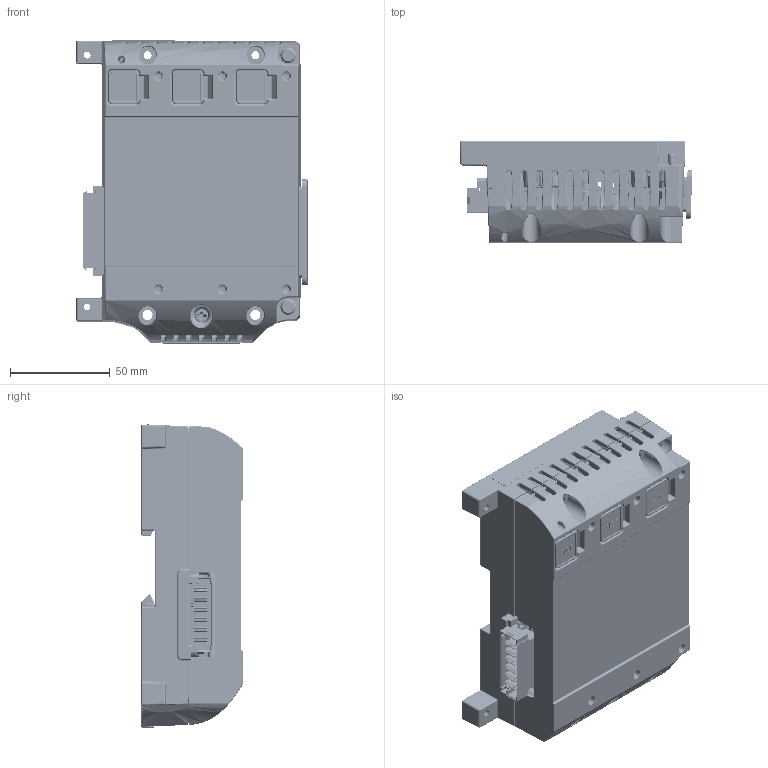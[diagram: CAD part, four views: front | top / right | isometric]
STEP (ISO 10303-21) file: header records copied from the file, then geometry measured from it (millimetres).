
FILE_DESCRIPTION(/* description */ ('Unknown'),/* implementation_level */ '2;1');
FILE_NAME(/* name */ 'GEXRACK2',/* time_stamp */ '2020-02-12T09:26:33-05:00',/* author */ ('Unknown'),/* organization */ ('Unknown'),/* preprocessor_version */ 'ST-DEVELOPER v16.7',/* originating_system */ 'DEX',/* authorisation */ $);
FILE_SCHEMA (('AUTOMOTIVE_DESIGN {1 0 10303 214 3 1 1}'));
Products named in the file (17): GEXRACK2; CV540200; HWSCS032; CV540300; 10495; M5314A_Rack_3Port_2015-03-31_11-46; HWRING04; HWSXCS20; HWPC1200; HWM05062; GK005468; HWM05451; SSLB0004; HWPC1501; HWPC2700; HWM05404; HWM05405
Assembly tree (27 placements, depth 2):
  GEXRACK2
    CV540200
    HWSCS032  x2
    CV540300
    10495  x2
    M5314A_Rack_3Port_2015-03-31_11-46
    HWRING04
    HWSXCS20  x6
    HWPC1200  x2
    HWM05062  x3
    GK005468
    HWM05451
    SSLB0004
    HWPC1501  x2
    HWPC2700
    HWM05404
    HWM05405
Bounding box: 116.46 x 50.76 x 151.74 mm (x, y, z)
Volume: 210112 mm3; surface area: 201823.5 mm2
Topology: 343 solids, 343 shells, 11970 faces, 30827 edges, 19465 vertices
Faces by surface type: plane 7502, cylinder 2562, bspline 813, torus 508, cone 406, sphere 179
Full cylindrical faces by diameter (mm): 0.35 x4, 0.5 x2, 0.8 x4, 1.016 x10, 1.041 x72, 1.65 x2, 1.651 x4, 1.75 x2, 2.156 x12, 2.387 x138, 2.647 x6, 2.845 x132, 3.048 x2, 3.264 x6, 3.307 x4, 3.5 x6, 3.556 x4, 3.56 x4, 4 x2, 4.08 x6, 4.166 x2, 5 x10, 5.41 x6, 6 x1, 6.25 x6, 6.3 x2, 6.35 x1, 6.42 x2, 6.5 x7, 7.642 x2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
Entity records: 411544 total; most frequent: CARTESIAN_POINT 124454, ORIENTED_EDGE 52700, DIRECTION 49226, EDGE_CURVE 26350, LINE 19590, VECTOR 19590, VERTEX_POINT 16986, AXIS2_PLACEMENT_3D 14818
